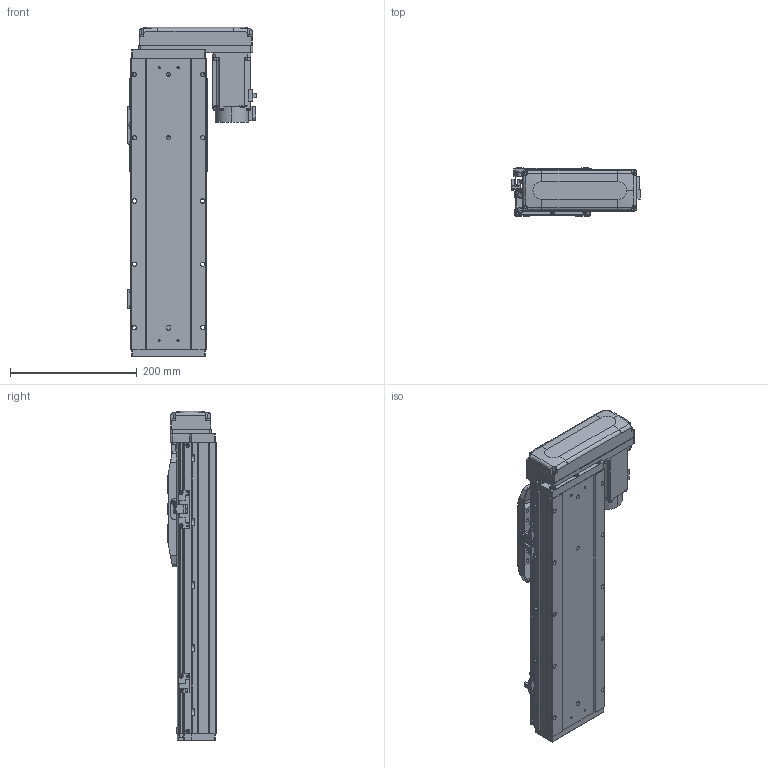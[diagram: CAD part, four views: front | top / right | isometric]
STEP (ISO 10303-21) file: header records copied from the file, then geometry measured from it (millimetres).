
FILE_DESCRIPTION (( 'STEP AP203' ), '1' );
FILE_NAME ('GTH12-250-BL-M40-C4.step', '2025-07-16T03:40:54', ( '' ), ( '' ), 'SwSTEP 2.0', 'SolidWorks 2023', '' );
FILE_SCHEMA (( 'CONFIG_CONTROL_DESIGN' ));
Length unit declared in the file: millimetre
Products named in the file (17): CTHA86-033_M40B; GBT 70.3-M3×8; 感应器总成左; GTH120-027-1_GTH120-027-2; GTH80-022; GBT 70.1-M5×16; GTH120-004; GTH12-250-BL-M40-C4; GTH120-001_250; GTH120-013; hg-kn43j_-s100_; GTH120-006; GTH120-003; 感应器总成右; GTH80-028; GBT 70.1-M3×6; BTH-M3X5X6
Assembly tree (38 placements, depth 2):
  GTH12-250-BL-M40-C4
    GTH120-001_250
    GTH120-003
    GTH120-006
    GTH120-004
    GTH120-013
    GBT 70.1-M3×6  x2
    GBT 70.1-M5×16  x10
    GBT 70.3-M3×8  x4
    GTH80-022
    GTH80-028  x2
    BTH-M3X5X6  x8
    hg-kn43j_-s100_
    CTHA86-033_M40B
    GTH120-027-1_GTH120-027-2
    感应器总成右  x2
    感应器总成左
Bounding box: 203.5 x 76 x 520.5 mm (x, y, z)
Volume: 4247334.5 mm3; surface area: 465906 mm2
Topology: 55 solids, 55 shells, 2313 faces, 5406 edges, 3329 vertices
Faces by surface type: plane 1196, cylinder 653, cone 288, torus 162, sphere 8, bspline 6
Entity records: 49916 total; most frequent: CARTESIAN_POINT 8546, DIRECTION 8421, ORIENTED_EDGE 7804, EDGE_CURVE 3902, AXIS2_PLACEMENT_3D 2937, LINE 2547, VECTOR 2547, VERTEX_POINT 2462
